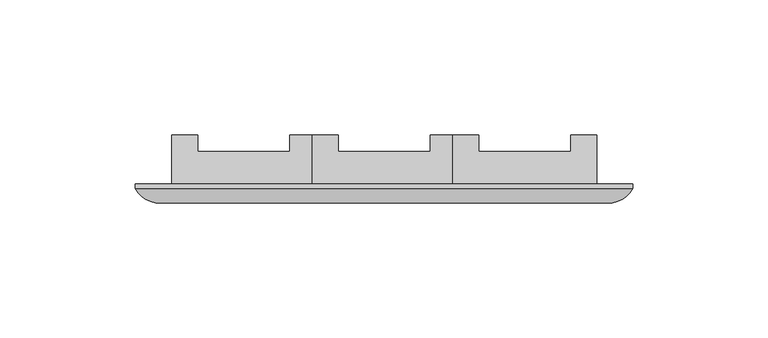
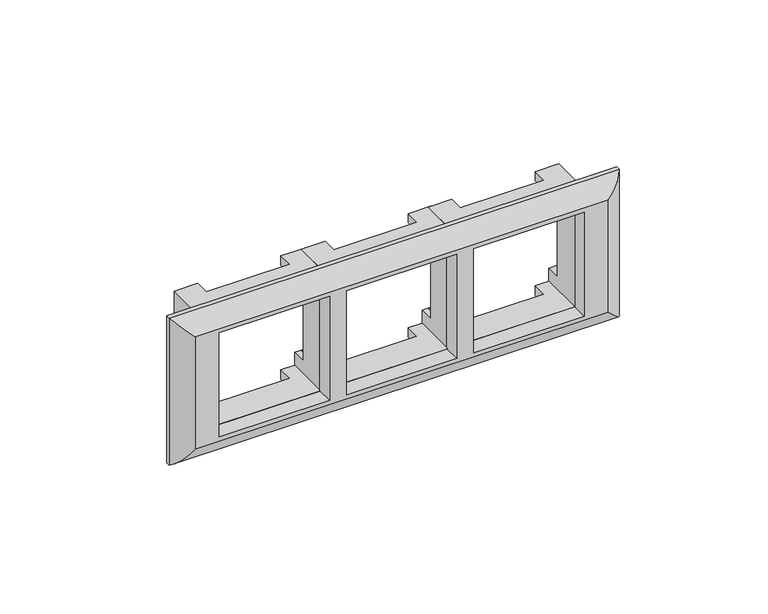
"""IFC4 building model written with IfcOpenShell, lengths in millimetres: proxy geometry."""

from ifc_helpers import new_model, si_unit, frame, origin, place, context, project, spatial, ellipse_curve, faceted_brep, source, transform, mapped, element, save
from ifc_brep_helpers import plane_surface, cylinder_surface, advanced_brep


def electrical_fixtures_9a973e3c(model_context):
    return source(origin(), model_context, "Body", "SolidModel", [
        faceted_brep([(78.65, 18.1, -17.0), (78.65, 18.1, -26.65), (69.0, 18.1, -26.65), (69.0, 18.1, -22.65), (74.65, 18.1, -22.65), (74.65, 18.1, -17.0), (78.65, 18.1, 26.65), (78.65, 18.1, 17.0), (74.65, 18.1, 17.0), (74.65, 18.1, 22.65), (69.0, 18.1, 22.65), (69.0, 18.1, 26.65), (25.35, 18.1, -26.65), (25.35, 18.1, -17.0), (29.35, 18.1, -17.0), (29.35, 18.1, -22.65), (35.0, 18.1, -22.65), (35.0, 18.1, -26.65), (25.35, 18.1, 17.0), (25.35, 18.1, 26.65), (35.0, 18.1, 26.65), (35.0, 18.1, 22.65), (29.35, 18.1, 22.65), (29.35, 18.1, 17.0), (78.65, 0.0, -26.65), (78.65, 0.0, 26.65), (25.35, 0.0, 26.65), (25.35, 0.0, -26.65), (74.65, 0.0, -22.65), (29.35, 0.0, -22.65), (29.35, 0.0, 22.65), (74.65, 0.0, 22.65), (78.65, 12.0483806, -17.0), (78.65, 12.0483806, 17.0), (69.0, 12.0483806, 26.65), (35.0, 12.0483806, 26.65), (25.35, 12.0483806, 17.0), (25.35, 12.0483806, -17.0), (35.0, 12.0483806, -26.65), (69.0, 12.0483806, -26.65), (69.0, 12.0483806, -22.65), (35.0, 12.0483806, -22.65), (29.35, 12.0483806, -17.0), (29.35, 12.0483806, 17.0), (35.0, 12.0483806, 22.65), (69.0, 12.0483806, 22.65), (74.65, 12.0483806, 17.0), (74.65, 12.0483806, -17.0)], [[[0, 1, 2, 3, 4, 5]], [[6, 7, 8, 9, 10, 11]], [[12, 13, 14, 15, 16, 17]], [[18, 19, 20, 21, 22, 23]], [[24, 25, 26, 27], [28, 29, 30, 31]], [[25, 24, 1, 0, 32, 33, 7, 6]], [[26, 25, 6, 11, 34, 35, 20, 19]], [[27, 26, 19, 18, 36, 37, 13, 12]], [[24, 27, 12, 17, 38, 39, 2, 1]], [[29, 28, 4, 3, 40, 41, 16, 15]], [[30, 29, 15, 14, 42, 43, 23, 22]], [[31, 30, 22, 21, 44, 45, 10, 9]], [[28, 31, 9, 8, 46, 47, 5, 4]], [[37, 42, 14, 13]], [[47, 32, 0, 5]], [[43, 36, 18, 23]], [[33, 46, 8, 7]], [[42, 37, 36, 43]], [[32, 47, 46, 33]], [[41, 38, 17, 16]], [[35, 44, 21, 20]], [[39, 40, 3, 2]], [[45, 34, 11, 10]], [[40, 39, 38, 41]], [[34, 45, 44, 35]]]),
        faceted_brep([(26.8, 18.1, -17.0), (26.8, 18.1, -26.65), (17.15, 18.1, -26.65), (17.15, 18.1, -22.65), (22.8, 18.1, -22.65), (22.8, 18.1, -17.0), (26.8, 18.1, 26.65), (26.8, 18.1, 17.0), (22.8, 18.1, 17.0), (22.8, 18.1, 22.65), (17.15, 18.1, 22.65), (17.15, 18.1, 26.65), (-26.5, 18.1, -26.65), (-26.5, 18.1, -17.0), (-22.5, 18.1, -17.0), (-22.5, 18.1, -22.65), (-16.85, 18.1, -22.65), (-16.85, 18.1, -26.65), (-26.5, 18.1, 17.0), (-26.5, 18.1, 26.65), (-16.85, 18.1, 26.65), (-16.85, 18.1, 22.65), (-22.5, 18.1, 22.65), (-22.5, 18.1, 17.0), (26.8, 0.0, -26.65), (26.8, 0.0, 26.65), (-26.5, 0.0, 26.65), (-26.5, 0.0, -26.65), (22.8, 0.0, -22.65), (-22.5, 0.0, -22.65), (-22.5, 0.0, 22.65), (22.8, 0.0, 22.65), (26.8, 12.0483806, -17.0), (26.8, 12.0483806, 17.0), (17.15, 12.0483806, 26.65), (-16.85, 12.0483806, 26.65), (-26.5, 12.0483806, 17.0), (-26.5, 12.0483806, -17.0), (-16.85, 12.0483806, -26.65), (17.15, 12.0483806, -26.65), (17.15, 12.0483806, -22.65), (-16.85, 12.0483806, -22.65), (-22.5, 12.0483806, -17.0), (-22.5, 12.0483806, 17.0), (-16.85, 12.0483806, 22.65), (17.15, 12.0483806, 22.65), (22.8, 12.0483806, 17.0), (22.8, 12.0483806, -17.0)], [[[0, 1, 2, 3, 4, 5]], [[6, 7, 8, 9, 10, 11]], [[12, 13, 14, 15, 16, 17]], [[18, 19, 20, 21, 22, 23]], [[24, 25, 26, 27], [28, 29, 30, 31]], [[25, 24, 1, 0, 32, 33, 7, 6]], [[26, 25, 6, 11, 34, 35, 20, 19]], [[27, 26, 19, 18, 36, 37, 13, 12]], [[24, 27, 12, 17, 38, 39, 2, 1]], [[29, 28, 4, 3, 40, 41, 16, 15]], [[30, 29, 15, 14, 42, 43, 23, 22]], [[31, 30, 22, 21, 44, 45, 10, 9]], [[28, 31, 9, 8, 46, 47, 5, 4]], [[37, 42, 14, 13]], [[47, 32, 0, 5]], [[43, 36, 18, 23]], [[33, 46, 8, 7]], [[42, 37, 36, 43]], [[32, 47, 46, 33]], [[41, 38, 17, 16]], [[35, 44, 21, 20]], [[39, 40, 3, 2]], [[45, 34, 11, 10]], [[40, 39, 38, 41]], [[34, 45, 44, 35]]]),
        faceted_brep([(-25.2, 18.1, -17.0), (-25.2, 18.1, -26.65), (-34.85, 18.1, -26.65), (-34.85, 18.1, -22.65), (-29.2, 18.1, -22.65), (-29.2, 18.1, -17.0), (-25.2, 18.1, 26.65), (-25.2, 18.1, 17.0), (-29.2, 18.1, 17.0), (-29.2, 18.1, 22.65), (-34.85, 18.1, 22.65), (-34.85, 18.1, 26.65), (-78.5, 18.1, -26.65), (-78.5, 18.1, -17.0), (-74.5, 18.1, -17.0), (-74.5, 18.1, -22.65), (-68.85, 18.1, -22.65), (-68.85, 18.1, -26.65), (-78.5, 18.1, 17.0), (-78.5, 18.1, 26.65), (-68.85, 18.1, 26.65), (-68.85, 18.1, 22.65), (-74.5, 18.1, 22.65), (-74.5, 18.1, 17.0), (-25.2, 0.0, -26.65), (-25.2, 0.0, 26.65), (-78.5, 0.0, 26.65), (-78.5, 0.0, -26.65), (-29.2, 0.0, -22.65), (-74.5, 0.0, -22.65), (-74.5, 0.0, 22.65), (-29.2, 0.0, 22.65), (-25.2, 12.0483806, -17.0), (-25.2, 12.0483806, 17.0), (-34.85, 12.0483806, 26.65), (-68.85, 12.0483806, 26.65), (-78.5, 12.0483806, 17.0), (-78.5, 12.0483806, -17.0), (-68.85, 12.0483806, -26.65), (-34.85, 12.0483806, -26.65), (-34.85, 12.0483806, -22.65), (-68.85, 12.0483806, -22.65), (-74.5, 12.0483806, -17.0), (-74.5, 12.0483806, 17.0), (-68.85, 12.0483806, 22.65), (-34.85, 12.0483806, 22.65), (-29.2, 12.0483806, 17.0), (-29.2, 12.0483806, -17.0)], [[[0, 1, 2, 3, 4, 5]], [[6, 7, 8, 9, 10, 11]], [[12, 13, 14, 15, 16, 17]], [[18, 19, 20, 21, 22, 23]], [[24, 25, 26, 27], [28, 29, 30, 31]], [[25, 24, 1, 0, 32, 33, 7, 6]], [[26, 25, 6, 11, 34, 35, 20, 19]], [[27, 26, 19, 18, 36, 37, 13, 12]], [[24, 27, 12, 17, 38, 39, 2, 1]], [[29, 28, 4, 3, 40, 41, 16, 15]], [[30, 29, 15, 14, 42, 43, 23, 22]], [[31, 30, 22, 21, 44, 45, 10, 9]], [[28, 31, 9, 8, 46, 47, 5, 4]], [[37, 42, 14, 13]], [[47, 32, 0, 5]], [[43, 36, 18, 23]], [[33, 46, 8, 7]], [[42, 37, 36, 43]], [[32, 47, 46, 33]], [[41, 38, 17, 16]], [[35, 44, 21, 20]], [[39, 40, 3, 2]], [[45, 34, 11, 10]], [[40, 39, 38, 41]], [[34, 45, 44, 35]]]),
        advanced_brep(
        [(91.95, -1.7181284, -31.75), (91.95, 0.0, -31.75), (91.95, 0.0, 31.75), (91.95, -1.7181284, 31.75), (84.461743, -7.0, 24.261743), (84.461743, -7.0, -24.261743), (-91.95, 0.0, 31.75), (-91.95, -1.7181284, 31.75), (-84.461743, -7.0, 24.261743), (-91.95, 0.0, -31.75), (-91.95, -1.7181284, -31.75), (-84.461743, -7.0, -24.261743), (-29.5, 0.0, 22.5), (-74.5, 0.0, 22.5), (-74.5, 0.0, -22.5), (-29.5, 0.0, -22.5), (22.5, 0.0, 22.5), (-22.5, 0.0, 22.5), (-22.5, 0.0, -22.5), (22.5, 0.0, -22.5), (29.5, 0.0, -22.5), (74.5, 0.0, -22.5), (74.5, 0.0, 22.5), (29.5, 0.0, 22.5), (-74.5, -7.0, 22.5), (-29.5, -7.0, 22.5), (-29.5, -7.0, -22.5), (-74.5, -7.0, -22.5), (22.5, -7.0, -22.5), (-22.5, -7.0, -22.5), (-22.5, -7.0, 22.5), (22.5, -7.0, 22.5), (29.5, -7.0, 22.5), (74.5, -7.0, 22.5), (74.5, -7.0, -22.5), (29.5, -7.0, -22.5)],
        [
            (0, 1),
            (1, 2),
            (2, 3),
            (3, 0),
            (3, 4, ellipse_curve(frame((82.6870905, 3.4650658, 22.4870905), z_axis=(0.7071067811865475, 0.0, -0.7071067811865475), x_axis=(-0.7071067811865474, 0.0, -0.7071067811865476)), 15.0111288, 10.614471)),
            (4, 5),
            (5, 0, ellipse_curve(frame((82.6870905, 3.4650658, -22.4870905), z_axis=(0.7071067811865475, 0.0, 0.7071067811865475), x_axis=(0.7071067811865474, 0.0, -0.7071067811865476)), 15.0111288, 10.614471)),
            (2, 6),
            (6, 7),
            (7, 3),
            (7, 8, ellipse_curve(frame((-82.6870905, 3.4650658, 22.4870905), z_axis=(0.7071067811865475, 0.0, 0.7071067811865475), x_axis=(0.7071067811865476, 0.0, -0.7071067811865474)), 15.0111288, 10.614471)),
            (8, 4),
            (6, 9),
            (9, 10),
            (10, 7),
            (10, 11, ellipse_curve(frame((-82.6870905, 3.4650658, -22.4870905), z_axis=(-0.7071067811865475, 0.0, 0.7071067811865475), x_axis=(0.7071067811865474, 0.0, 0.7071067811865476)), 15.0111288, 10.614471)),
            (11, 8),
            (1, 9),
            (12, 13),
            (13, 14),
            (14, 15),
            (15, 12),
            (16, 17),
            (17, 18),
            (18, 19),
            (19, 16),
            (20, 21),
            (21, 22),
            (22, 23),
            (23, 20),
            (0, 10),
            (5, 11),
            (24, 25),
            (25, 26),
            (26, 27),
            (27, 24),
            (28, 29),
            (29, 30),
            (30, 31),
            (31, 28),
            (32, 33),
            (33, 34),
            (34, 35),
            (35, 32),
            (17, 30),
            (29, 18),
            (25, 12),
            (15, 26),
            (24, 13),
            (27, 14),
            (31, 16),
            (19, 28),
            (33, 22),
            (21, 34),
            (32, 23),
            (35, 20),
        ],
        [
            plane_surface(frame((91.95, 0.0, -31.75), z_axis=(1.0, 0.0, 0.0), x_axis=(0.0, 0.0, 1.0))),
            cylinder_surface(frame((82.6870905, 3.4650658, -31.75), z_axis=(0.0, 0.0, -1.0), x_axis=(-1.0, 0.0, 0.0)), 10.614471),
            plane_surface(frame((91.95, 0.0, 31.75), z_axis=(0.0, 0.0, 1.0), x_axis=(-1.0, 0.0, 0.0))),
            cylinder_surface(frame((91.95, 3.4650658, 22.4870905), z_axis=(1.0, 0.0, 0.0), x_axis=(0.0, 0.0, -1.0)), 10.614471),
            plane_surface(frame((-91.95, 0.0, 31.75), z_axis=(-1.0, 0.0, 0.0), x_axis=(0.0, 0.0, -1.0))),
            cylinder_surface(frame((-82.6870905, 3.4650658, 31.75), z_axis=(0.0, 0.0, 1.0), x_axis=(1.0, 0.0, 0.0)), 10.614471),
            plane_surface(frame((-66.2, 0.0, -6.0), z_axis=(0.0, 1.0, 0.0), x_axis=(1.0, 0.0, 0.0))),
            plane_surface(frame((-91.95, 0.0, -31.75), z_axis=(0.0, 0.0, -1.0), x_axis=(1.0, 0.0, 0.0))),
            cylinder_surface(frame((-91.95, 3.4650658, -22.4870905), z_axis=(-1.0, 0.0, 0.0), x_axis=(0.0, 0.0, 1.0)), 10.614471),
            plane_surface(frame((-84.461743, -7.0, -24.261743), z_axis=(0.0, -1.0, 0.0), x_axis=(1.0, 0.0, 0.0))),
            plane_surface(frame((-22.5, -7.0, -6.0), z_axis=(1.0, 0.0, 0.0), x_axis=(0.0, 1.0, 0.0))),
            plane_surface(frame((-29.5, -7.0, 6.0), z_axis=(-1.0, 0.0, 0.0), x_axis=(0.0, 1.0, 0.0))),
            plane_surface(frame((-29.5, -7.0, 22.5), z_axis=(0.0, 0.0, -1.0), x_axis=(0.0, 1.0, 0.0))),
            plane_surface(frame((-74.5, -7.0, 22.5), z_axis=(1.0, 0.0, 0.0), x_axis=(0.0, 1.0, 0.0))),
            plane_surface(frame((-74.5, -7.0, -22.5), z_axis=(0.0, 0.0, 1.0), x_axis=(0.0, 1.0, 0.0))),
            plane_surface(frame((22.5, -7.0, -22.5), z_axis=(-1.0, 0.0, 0.0), x_axis=(0.0, 1.0, 0.0))),
            plane_surface(frame((22.5, -7.0, 22.5), z_axis=(0.0, 0.0, -1.0), x_axis=(0.0, 1.0, 0.0))),
            plane_surface(frame((-22.5, -7.0, -22.5), z_axis=(0.0, 0.0, 1.0), x_axis=(0.0, 1.0, 0.0))),
            plane_surface(frame((74.5, -7.0, -22.5), z_axis=(-1.0, 0.0, 0.0), x_axis=(0.0, 1.0, 0.0))),
            plane_surface(frame((74.5, -7.0, 22.5), z_axis=(0.0, 0.0, -1.0), x_axis=(0.0, 1.0, 0.0))),
            plane_surface(frame((29.5, -7.0, 22.5), z_axis=(1.0, 0.0, 0.0), x_axis=(0.0, 1.0, 0.0))),
            plane_surface(frame((29.5, -7.0, -22.5), z_axis=(0.0, 0.0, 1.0), x_axis=(0.0, 1.0, 0.0))),
        ],
        [
            (0, [[1, 2, 3, 4]]),
            (1, [[-4, 5, 6, 7]]),
            (2, [[-3, 8, 9, 10]]),
            (3, [[-5, -10, 11, 12]]),
            (4, [[-9, 13, 14, 15]]),
            (5, [[-11, -15, 16, 17]]),
            (6, [[-2, 18, -13, -8], [19, 20, 21, 22], [23, 24, 25, 26], [27, 28, 29, 30]]),
            (7, [[-1, 31, -14, -18]]),
            (8, [[-7, 32, -16, -31]]),
            (9, [[-6, -12, -17, -32], [33, 34, 35, 36], [37, 38, 39, 40], [41, 42, 43, 44]]),
            (10, [[45, -38, 46, -24]]),
            (11, [[47, -22, 48, -34]]),
            (12, [[-47, -33, 49, -19]]),
            (13, [[-49, -36, 50, -20]]),
            (14, [[-48, -21, -50, -35]]),
            (15, [[-40, 51, -26, 52]]),
            (16, [[-51, -39, -45, -23]]),
            (17, [[-52, -25, -46, -37]]),
            (18, [[53, -28, 54, -42]]),
            (19, [[-53, -41, 55, -29]]),
            (20, [[-30, -55, -44, 56]]),
            (21, [[-54, -27, -56, -43]]),
        ],
    ),
    ])


if __name__ == "__main__":
    model = new_model("IFC4")
    model_context = context("Model", 3, world=origin())
    ifc_project = project(units=[si_unit("LENGTHUNIT", "METRE", prefix="MILLI")], contexts=[model_context])
    site = spatial("IfcSite", under=ifc_project)
    building = spatial("IfcBuilding", under=site)
    placement = place(None, origin())
    electrical_fixtures_shape = electrical_fixtures_9a973e3c(model_context)
    element("IfcBuildingElementProxy", 1, Name="Electrical Fixtures", at=placement, inside=building, context=model_context, shape_type="MappedRepresentation", body=[
        mapped(electrical_fixtures_shape, transform((0.0, 0.0, 0.0), x_axis=(1.0, 0.0, 0.0), y_axis=(0.0, 1.0, 0.0), z_axis=(0.0, 0.0, 1.0))),
    ])
    save(model, "model.ifc")
